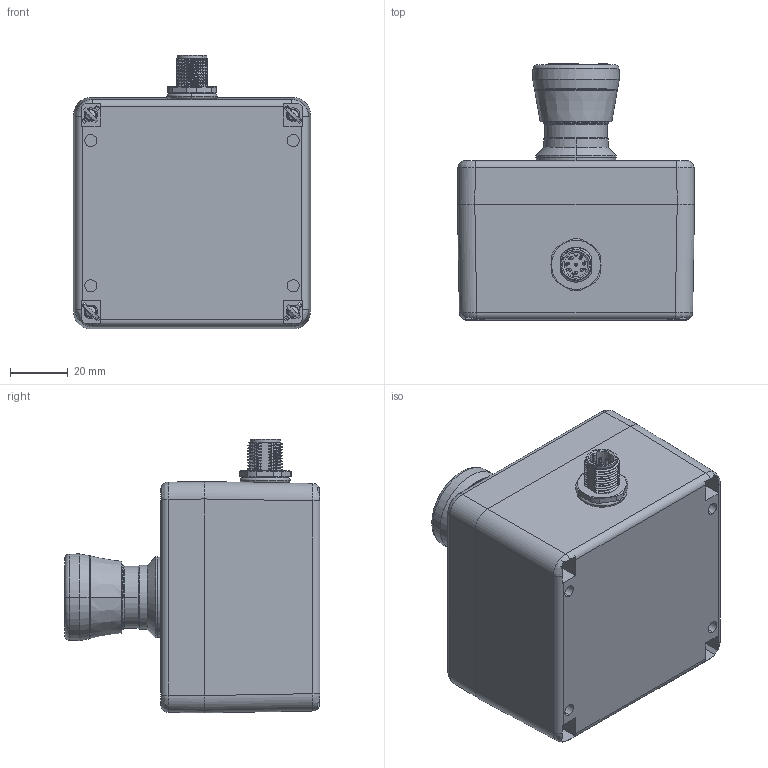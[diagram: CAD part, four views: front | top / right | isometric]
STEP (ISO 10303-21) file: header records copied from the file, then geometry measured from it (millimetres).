
FILE_DESCRIPTION((''),'2;1');
FILE_NAME('6075689138_ASM','2023-09-25T08:11:51',('Michaela.Grimm'),(''),'CREO PARAMETRIC BY PTC INC, 2022124','CREO PARAMETRIC BY PTC INC, 2022124','');
FILE_SCHEMA(('AUTOMOTIVE_DESIGN { 1 0 10303 214 1 1 1 1 }'));
Products named in the file (3): K-60700023_SW0003; 76_0231_0011_00008_0200; 6075689138_ASM
Assembly tree (2 placements, depth 2):
  6075689138_ASM
    K-60700023_SW0003
    76_0231_0011_00008_0200
Bounding box: 82 x 88.53 x 94.7 mm (x, y, z)
Volume: 123280.8 mm3; surface area: 77574.2 mm2
Topology: 4 solids, 5 shells, 1405 faces, 4016 edges, 2537 vertices
Faces by surface type: plane 514, cylinder 453, cone 156, bspline 103, torus 101, sphere 45, extrusion 33
Entity records: 86422 total; most frequent: CARTESIAN_POINT 34530, ORIENTED_EDGE 7944, DIRECTION 6743, PRESENTATION_STYLE_ASSIGNMENT 4354, STYLED_ITEM 4109, EDGE_CURVE 3980, CURVE_STYLE 3861, VERTEX_POINT 2537
